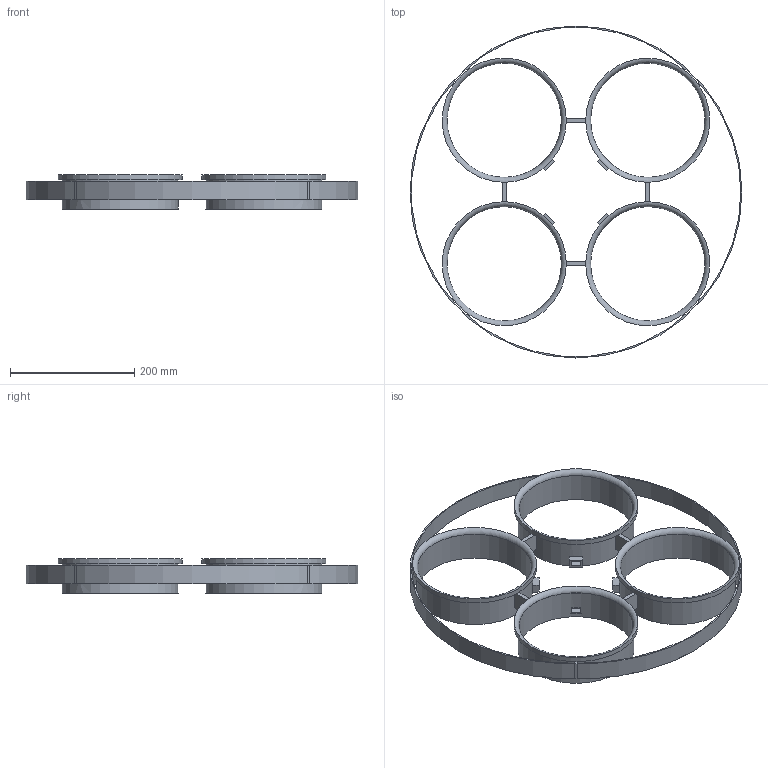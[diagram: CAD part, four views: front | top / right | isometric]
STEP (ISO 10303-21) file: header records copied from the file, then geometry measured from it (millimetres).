
FILE_DESCRIPTION(('FreeCAD Model'),'2;1');
FILE_NAME('Open CASCADE Shape Model','2026-10-22T12:49:28',('FreeCAD'),( 'FreeCAD'),'Open CASCADE STEP processor 8.0','FreeCAD','Unknown');
FILE_SCHEMA(('AUTOMOTIVE_DESIGN { 1 0 10303 214 1 1 1 1 }'));
Length unit declared in the file: millimetre
Products named in the file (1): Open CASCADE STEP translator 8.0 1
Bounding box: 535 x 535 x 55 mm (x, y, z)
Volume: 442081.4 mm3; surface area: 412798.4 mm2
Topology: 1 solids, 1 shells, 115 faces, 315 edges, 208 vertices
Faces by surface type: plane 94, cylinder 17, torus 4
Full cylindrical faces by diameter (mm): 184 x4, 187.2 x4, 200 x4, 535 x1
Entity records: 3731 total; most frequent: CARTESIAN_POINT 639, DIRECTION 639, ORIENTED_EDGE 630, EDGE_CURVE 315, LINE 223, VECTOR 223, AXIS2_PLACEMENT_3D 208, VERTEX_POINT 208
